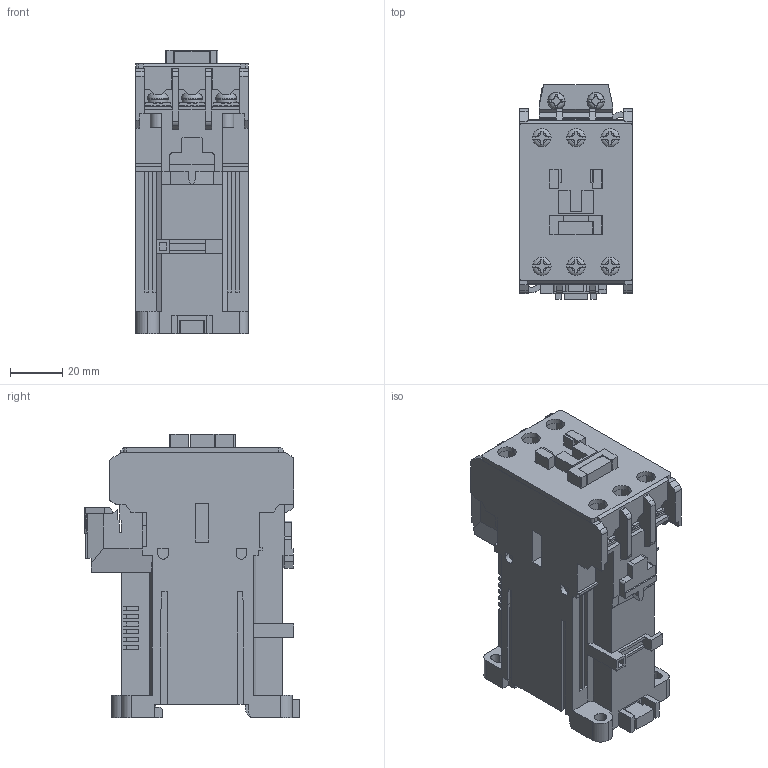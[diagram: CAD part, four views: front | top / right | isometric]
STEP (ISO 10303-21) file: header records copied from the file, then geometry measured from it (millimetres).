
FILE_DESCRIPTION (( 'STEP AP214' ), '1' );
FILE_NAME ('SC-E02G.STEP', '2015-11-10T08:06:10', ( '川崎工場' ), ( '富士電機株式会社' ), 'SwSTEP 2.0', 'SolidWorks 2015', '' );
FILE_SCHEMA (( 'AUTOMOTIVE_DESIGN' ));
Length unit declared in the file: millimetre
Products named in the file (14): SC-E02G; Screw_M3P5Set^SC-E02G; Screw_M3.5_L5; Springwasher_M3P5; Plate_M3P5_7P7; Screw_M4Set^SC-E02G; Screw_M4_L8; Springwasher_M4; Plate_M4_9P7-9P7 flat; SC-E02G-Main plate band; SC-E02G-Coil plate band; SC-E02G_terminal cover_Coil side; SC-E02G_Case cover; SC-E02G_Case
Assembly tree (22 placements, depth 3):
  SC-E02G
    SC-E02G_Case
    SC-E02G_Case cover
    SC-E02G_terminal cover_Coil side
    SC-E02G-Coil plate band  x2
    SC-E02G-Main plate band  x3
    Screw_M4Set^SC-E02G  x6
      Plate_M4_9P7-9P7 flat
      Springwasher_M4
      Screw_M4_L8
    Screw_M3P5Set^SC-E02G  x2
      Plate_M3P5_7P7
      Springwasher_M3P5
      Screw_M3.5_L5
Bounding box: 43 x 81.8 x 108 mm (x, y, z)
Volume: 228528.9 mm3; surface area: 60707.2 mm2
Topology: 32 solids, 32 shells, 1701 faces, 4812 edges, 3184 vertices
Faces by surface type: plane 1440, cylinder 213, cone 32, torus 16
Entity records: 34884 total; most frequent: CARTESIAN_POINT 6334, ORIENTED_EDGE 6032, DIRECTION 5490, EDGE_CURVE 3016, VECTOR 2630, LINE 2630, VERTEX_POINT 1994, AXIS2_PLACEMENT_3D 1430
